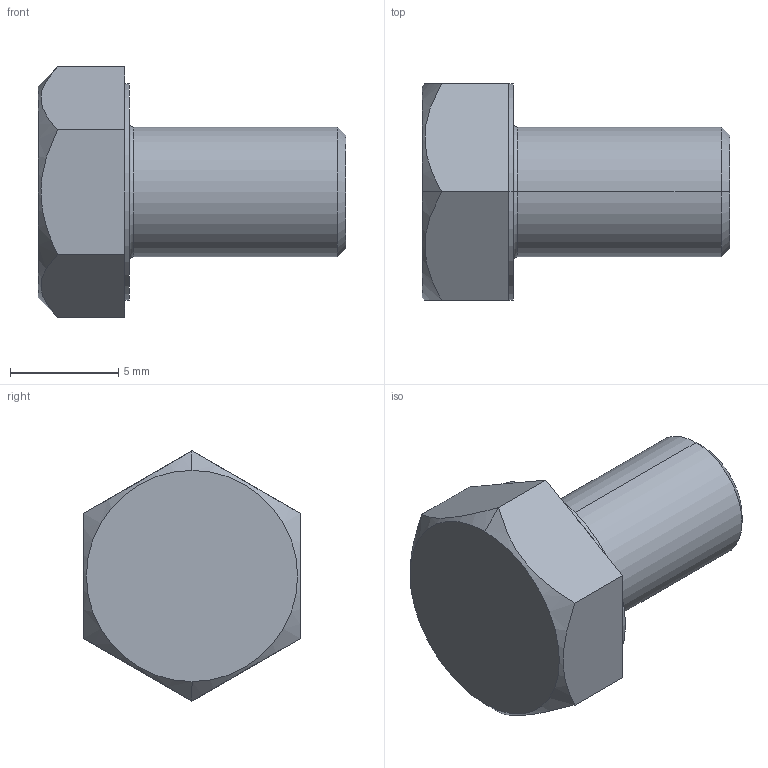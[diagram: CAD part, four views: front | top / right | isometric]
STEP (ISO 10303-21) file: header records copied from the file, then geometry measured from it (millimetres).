
FILE_DESCRIPTION (( 'STEP AP203' ), '1' );
FILE_NAME ('LGN-TD-M6x10.STEP', '2026-08-14T03:46:19', ( '' ), ( '' ), 'SwSTEP 2.0', 'SolidWorks 2020', '' );
FILE_SCHEMA (( 'CONFIG_CONTROL_DESIGN' ));
Length unit declared in the file: millimetre
Products named in the file (1): LGN-TD-M6x10
Bounding box: 14.2 x 10 x 11.55 mm (x, y, z)
Volume: 640.4 mm3; surface area: 491.7 mm2
Topology: 1 solids, 1 shells, 25 faces, 54 edges, 32 vertices
Faces by surface type: plane 15, cone 4, cylinder 4, torus 2
Entity records: 809 total; most frequent: CARTESIAN_POINT 182, DIRECTION 122, ORIENTED_EDGE 108, EDGE_CURVE 54, AXIS2_PLACEMENT_3D 48, VERTEX_POINT 32, VECTOR 26, EDGE_LOOP 26
